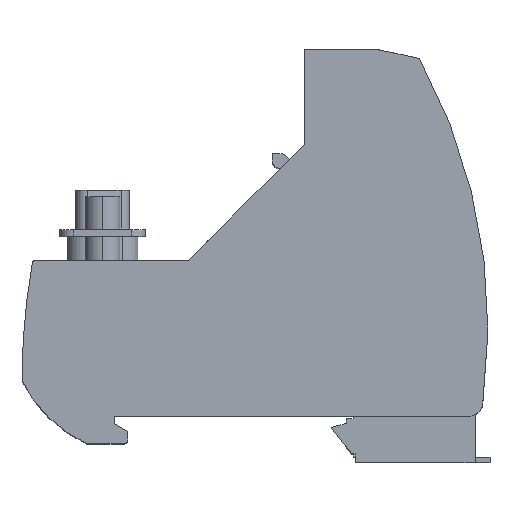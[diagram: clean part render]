
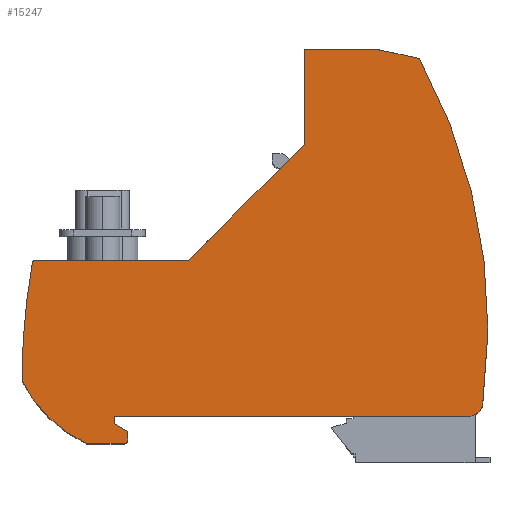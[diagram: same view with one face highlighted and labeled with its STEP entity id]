
A CAD part, top view. The second image highlights one B-rep face of the part: STEP entity #15247.
In plain terms, the highlighted planar face has unit normal (0, 0, 1).
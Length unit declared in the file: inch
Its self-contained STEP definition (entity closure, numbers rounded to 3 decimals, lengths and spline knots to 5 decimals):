
#908=DIRECTION('',(-1.,0.,0.));
#909=VECTOR('',#908,2.05787);
#910=CARTESIAN_POINT('',(2.05787,0.,2.24803));
#911=LINE('',#910,#909);
#916=DIRECTION('',(0.,-1.,0.));
#917=VECTOR('',#916,0.04331);
#918=CARTESIAN_POINT('',(0.,0.,2.24803));
#919=LINE('',#918,#917);
#2016=DIRECTION('',(1.,0.,0.));
#2017=VECTOR('',#2016,0.41554);
#2018=CARTESIAN_POINT('',(1.10315,2.13268,2.24803));
#2019=LINE('',#2018,#2017);
#2254=DIRECTION('',(-1.,0.,0.));
#2255=VECTOR('',#2254,0.89324);
#2256=CARTESIAN_POINT('',(0.43386,0.90748,
2.24803));
#2257=LINE('',#2256,#2255);
#2258=DIRECTION('',(-0.707,-0.707,0.));
#2259=VECTOR('',#2258,0.94652);
#2260=CARTESIAN_POINT('',(1.10315,1.57677,2.24803));
#2261=LINE('',#2260,#2259);
#2262=DIRECTION('',(0.,-1.,0.));
#2263=VECTOR('',#2262,0.55591);
#2264=CARTESIAN_POINT('',(1.10315,2.13268,2.24803));
#2265=LINE('',#2264,#2263);
#2266=DIRECTION('',(-0.978,0.208,0.));
#2267=VECTOR('',#2266,0.25942);
#2268=CARTESIAN_POINT('',(1.77244,2.07874,2.24803));
#2269=LINE('',#2268,#2267);
#2270=CARTESIAN_POINT('',(-1.07221,0.52052,
2.24803));
#2271=DIRECTION('',(0.,0.,1.));
#2272=DIRECTION('',(0.991,-0.135,0.));
#2273=AXIS2_PLACEMENT_3D('',#2270,#2271,#2272);
#2275=CARTESIAN_POINT('',(2.05787,0.08386,2.24803));
#2276=DIRECTION('',(0.,0.,1.));
#2277=DIRECTION('',(0.,-1.,0.));
#2278=AXIS2_PLACEMENT_3D('',#2275,#2276,#2277);
#2280=DIRECTION('',(-0.866,0.5,0.));
#2281=VECTOR('',#2280,0.09092);
#2282=CARTESIAN_POINT('',(0.07874,-0.08877,
2.24803));
#2283=LINE('',#2282,#2281);
#2284=CARTESIAN_POINT('',(0.05906,-0.1378,
2.24803));
#2285=DIRECTION('',(0.,0.,1.));
#2286=DIRECTION('',(0.,-1.,0.));
#2287=AXIS2_PLACEMENT_3D('',#2284,#2285,#2286);
#2289=CARTESIAN_POINT('',(0.16982,0.55686,
2.24803));
#2290=DIRECTION('',(0.,0.,1.));
#2291=DIRECTION('',(-0.896,-0.445,0.));
#2292=AXIS2_PLACEMENT_3D('',#2289,#2290,#2291);
#2294=CARTESIAN_POINT('',(3.40157,0.20669,2.24803));
#2295=DIRECTION('',(0.,0.,1.));
#2296=DIRECTION('',(-0.985,0.175,0.));
#2297=AXIS2_PLACEMENT_3D('',#2294,#2295,#2296);
#2299=CARTESIAN_POINT('',(-0.45938,0.89173,
2.24803));
#2300=DIRECTION('',(0.,0.,1.));
#2301=DIRECTION('',(0.,1.,0.));
#2302=AXIS2_PLACEMENT_3D('',#2299,#2300,#2301);
#2312=DIRECTION('',(0.,-1.,0.));
#2313=VECTOR('',#2312,0.04903);
#2314=CARTESIAN_POINT('',(0.07874,-0.08877,
2.24803));
#2315=LINE('',#2314,#2313);
#2324=DIRECTION('',(-1.,0.,0.));
#2325=VECTOR('',#2324,0.22047);
#2326=CARTESIAN_POINT('',(0.05906,-0.15748,
2.24803));
#2327=LINE('',#2326,#2325);
#11809=CARTESIAN_POINT('',(1.51869,2.13268,2.24803));
#11810=VERTEX_POINT('',#11809);
#11811=CARTESIAN_POINT('',(1.77244,2.07874,2.24803));
#11812=VERTEX_POINT('',#11811);
#12174=CARTESIAN_POINT('',(1.10315,1.57677,2.24803));
#12175=VERTEX_POINT('',#12174);
#12176=CARTESIAN_POINT('',(1.10315,2.13268,2.24803));
#12177=VERTEX_POINT('',#12176);
#12194=CARTESIAN_POINT('',(-0.45938,0.90748,
2.24803));
#12195=VERTEX_POINT('',#12194);
#12196=CARTESIAN_POINT('',(0.43386,0.90748,
2.24803));
#12197=VERTEX_POINT('',#12196);
#12226=CARTESIAN_POINT('',(-0.47489,0.89448,
2.24803));
#12227=VERTEX_POINT('',#12226);
#12228=CARTESIAN_POINT('',(-0.53543,0.20669,
2.24803));
#12229=VERTEX_POINT('',#12228);
#12230=CARTESIAN_POINT('',(-0.16142,-0.15748,
2.24803));
#12231=VERTEX_POINT('',#12230);
#12232=CARTESIAN_POINT('',(0.05906,-0.15748,
2.24803));
#12233=VERTEX_POINT('',#12232);
#12234=CARTESIAN_POINT('',(0.07874,-0.1378,
2.24803));
#12235=VERTEX_POINT('',#12234);
#12236=CARTESIAN_POINT('',(0.07874,-0.08877,
2.24803));
#12237=VERTEX_POINT('',#12236);
#12238=CARTESIAN_POINT('',(0.,-0.04331,2.24803));
#12239=VERTEX_POINT('',#12238);
#12240=CARTESIAN_POINT('',(0.,0.,2.24803));
#12241=VERTEX_POINT('',#12240);
#12242=CARTESIAN_POINT('',(2.05787,0.,
2.24803));
#12243=VERTEX_POINT('',#12242);
#12244=CARTESIAN_POINT('',(2.14173,0.08386,
2.24803));
#12245=VERTEX_POINT('',#12244);
#15217=CARTESIAN_POINT('',(0.81838,0.9876,
2.24803));
#15218=DIRECTION('',(0.,0.,1.));
#15219=DIRECTION('',(1.,0.,0.));
#15220=AXIS2_PLACEMENT_3D('',#15217,#15218,#15219);
#15221=PLANE('',#15220);
#15222=ORIENTED_EDGE('',*,*,#13627,.F.);
#15223=ORIENTED_EDGE('',*,*,#14293,.F.);
#15224=ORIENTED_EDGE('',*,*,#14756,.F.);
#15225=ORIENTED_EDGE('',*,*,#14799,.T.);
#15226=ORIENTED_EDGE('',*,*,#13417,.F.);
#15227=ORIENTED_EDGE('',*,*,#13515,.F.);
#15228=ORIENTED_EDGE('',*,*,#13529,.F.);
#15229=ORIENTED_EDGE('',*,*,#13546,.T.);
#15230=ORIENTED_EDGE('',*,*,#13571,.T.);
#15232=ORIENTED_EDGE('',*,*,#15231,.F.);
#15234=ORIENTED_EDGE('',*,*,#15233,.T.);
#15236=ORIENTED_EDGE('',*,*,#15235,.F.);
#15238=ORIENTED_EDGE('',*,*,#15237,.T.);
#15240=ORIENTED_EDGE('',*,*,#15239,.F.);
#15242=ORIENTED_EDGE('',*,*,#15241,.F.);
#15244=ORIENTED_EDGE('',*,*,#15243,.F.);
#15245=EDGE_LOOP('',(#15222,#15223,#15224,#15225,#15226,#15227,#15228,#15229,
#15230,#15232,#15234,#15236,#15238,#15240,#15242,#15244));
#15246=FACE_OUTER_BOUND('',#15245,.F.);
#15247=ADVANCED_FACE('',(#15246),#15221,.T.);
#2274=CIRCLE('',#2273,3.24347);
#2279=CIRCLE('',#2278,0.08386);
#2288=CIRCLE('',#2287,0.01969);
#2293=CIRCLE('',#2292,0.7874);
#2298=CIRCLE('',#2297,3.93701);
#2303=CIRCLE('',#2302,0.01575);
#13417=EDGE_CURVE('',#11812,#11810,#2269,.T.);
#13515=EDGE_CURVE('',#12245,#11812,#2274,.T.);
#13529=EDGE_CURVE('',#12243,#12245,#2279,.T.);
#13546=EDGE_CURVE('',#12243,#12241,#911,.T.);
#13571=EDGE_CURVE('',#12241,#12239,#919,.T.);
#13627=EDGE_CURVE('',#12197,#12195,#2257,.T.);
#14293=EDGE_CURVE('',#12175,#12197,#2261,.T.);
#14756=EDGE_CURVE('',#12177,#12175,#2265,.T.);
#14799=EDGE_CURVE('',#12177,#11810,#2019,.T.);
#15231=EDGE_CURVE('',#12237,#12239,#2283,.T.);
#15233=EDGE_CURVE('',#12237,#12235,#2315,.T.);
#15235=EDGE_CURVE('',#12233,#12235,#2288,.T.);
#15237=EDGE_CURVE('',#12233,#12231,#2327,.T.);
#15239=EDGE_CURVE('',#12229,#12231,#2293,.T.);
#15241=EDGE_CURVE('',#12227,#12229,#2298,.T.);
#15243=EDGE_CURVE('',#12195,#12227,#2303,.T.);
